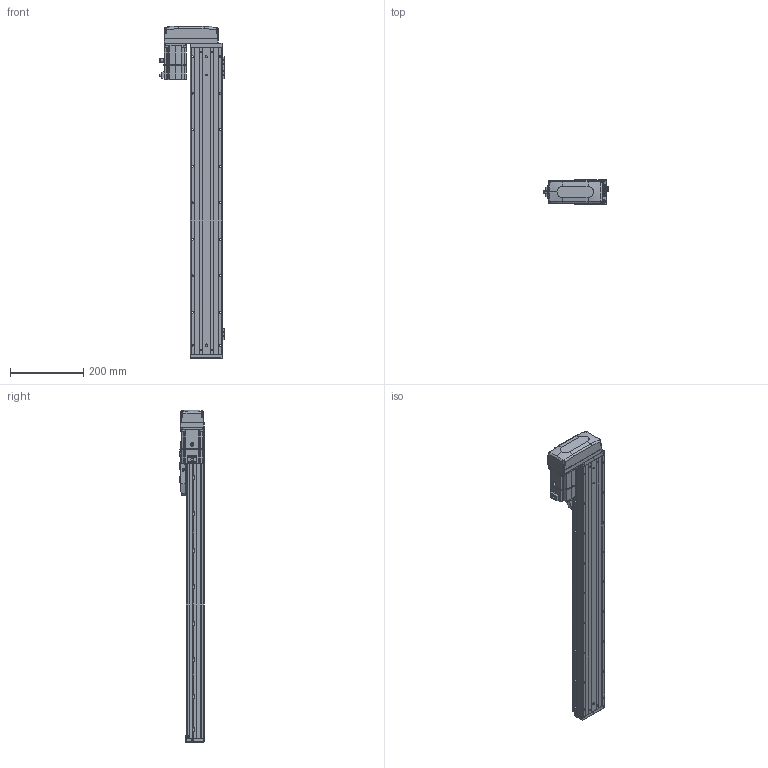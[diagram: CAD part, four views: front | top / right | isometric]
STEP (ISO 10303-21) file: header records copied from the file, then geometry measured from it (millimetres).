
FILE_DESCRIPTION (( 'STEP AP203' ), '1' );
FILE_NAME ('CTHA86-650-BR-M20-C4L.step', '2022-04-26T01:00:48', ( '微软用户' ), ( '微软中国' ), 'SwSTEP 2.0', 'SolidWorks 2020', '' );
FILE_SCHEMA (( 'CONFIG_CONTROL_DESIGN' ));
Length unit declared in the file: millimetre
Products named in the file (21): _X2_4E0983F1_X0_200W_1; CTHA86-650-BR-M20-C4L; KTHA86-001_840; GBT77-2000 M3×3; CTHA86-002; KTHA86-004; GBT 70.1-M3×20; CTHA86-031; KTHA86-005; GBT70.1 M5℅16; CTHA86-030; GB¨uT 70.2-M3¡Á5_M3¡Á6; GBT 70.1-M3×16; GBT 70.3-M3℅6; EE_SX911P_R; GBT 70.1-M3℅6; CTHA86-015-1_CTHA86-015-2; CTHA60-017; CTHA60-016; CTHA86-033; CTHA60-021
Assembly tree (66 placements, depth 2):
  CTHA86-650-BR-M20-C4L
    KTHA86-001_840
    KTHA86-004
    KTHA86-005
    GB¨uT 70.2-M3¡Á5_M3¡Á6  x10
    EE_SX911P_R  x3
    CTHA60-017  x3
    CTHA60-021  x2
    GBT77-2000 M3×3  x6
    GBT 70.1-M3×20
    GBT70.1 M5℅16  x14
    GBT 70.1-M3×16  x5
    GBT 70.1-M3℅6  x6
    CTHA60-016  x2
    _X2_4E0983F1_X0_200W_1
    CTHA86-002
    CTHA86-031
    CTHA86-030  x2
    GBT 70.3-M3℅6  x4
    CTHA86-015-1_CTHA86-015-2
    CTHA86-033
Bounding box: 178.52 x 68 x 909 mm (x, y, z)
Volume: 3580062.6 mm3; surface area: 618692.4 mm2
Topology: 68 solids, 68 shells, 2786 faces, 6652 edges, 4096 vertices
Faces by surface type: plane 1463, cylinder 723, cone 369, torus 132, bspline 75, sphere 24
Entity records: 49081 total; most frequent: CARTESIAN_POINT 9507, DIRECTION 7629, ORIENTED_EDGE 7404, EDGE_CURVE 3702, AXIS2_PLACEMENT_3D 2602, VECTOR 2425, LINE 2425, VERTEX_POINT 2328
